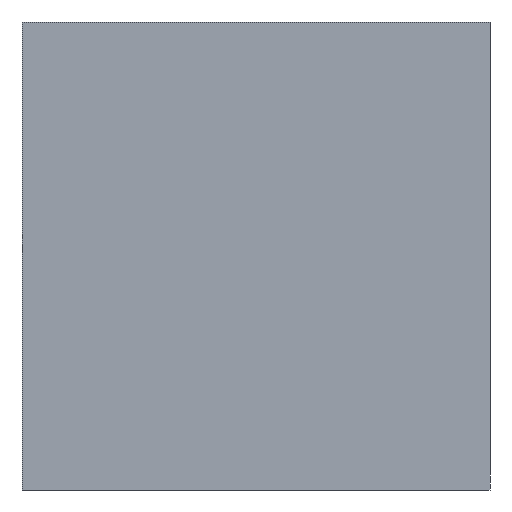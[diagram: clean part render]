
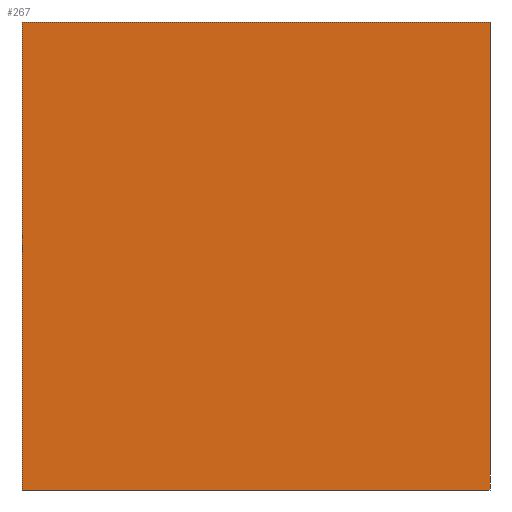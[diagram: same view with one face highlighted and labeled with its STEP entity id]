
A CAD part, front view. The second image highlights one B-rep face of the part: STEP entity #267.
In plain terms, the highlighted planar face has unit normal (0, -1, 0).
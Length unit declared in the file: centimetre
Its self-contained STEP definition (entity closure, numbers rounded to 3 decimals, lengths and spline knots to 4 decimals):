
#11 = ORIENTED_EDGE ( 'NONE', *, *, #600, .F. ) ;
#15 = ORIENTED_EDGE ( 'NONE', *, *, #215, .T. ) ;
#16 = EDGE_LOOP ( 'NONE', ( #327, #11, #191, #15 ) ) ;
#17 = AXIS2_PLACEMENT_3D ( 'NONE', #334, #101, #560 ) ;
#45 = CARTESIAN_POINT ( 'NONE',  ( 0., 0., 0. ) ) ;
#48 = CARTESIAN_POINT ( 'NONE',  ( 0., 0., 1000. ) ) ;
#50 = VECTOR ( 'NONE', #461, 100. ) ;
#53 = VECTOR ( 'NONE', #529, 100. ) ;
#56 = CARTESIAN_POINT ( 'NONE',  ( 1000., 0., 0. ) ) ;
#67 = EDGE_CURVE ( 'NONE', #206, #304, #549, .T. ) ;
#93 = LINE ( 'NONE', #102, #53 ) ;
#101 = DIRECTION ( 'NONE',  ( 0., 1., 0. ) ) ;
#102 = CARTESIAN_POINT ( 'NONE',  ( 1000., 0., 1000. ) ) ;
#125 = EDGE_CURVE ( 'NONE', #482, #204, #129, .T. ) ;
#129 = LINE ( 'NONE', #596, #314 ) ;
#139 = DIRECTION ( 'NONE',  ( 0., 0., -1. ) ) ;
#178 = VECTOR ( 'NONE', #139, 100. ) ;
#191 = ORIENTED_EDGE ( 'NONE', *, *, #125, .F. ) ;
#192 = FACE_OUTER_BOUND ( 'NONE', #16, .T. ) ;
#204 = VERTEX_POINT ( 'NONE', #465 ) ;
#206 = VERTEX_POINT ( 'NONE', #45 ) ;
#214 = CARTESIAN_POINT ( 'NONE',  ( 0., 0., 0. ) ) ;
#215 = EDGE_CURVE ( 'NONE', #482, #206, #228, .T. ) ;
#228 = LINE ( 'NONE', #48, #178 ) ;
#267 = ADVANCED_FACE ( 'NONE', ( #192 ), #278, .F. ) ;
#278 = PLANE ( 'NONE',  #17 ) ;
#304 = VERTEX_POINT ( 'NONE', #56 ) ;
#314 = VECTOR ( 'NONE', #366, 100. ) ;
#326 = CARTESIAN_POINT ( 'NONE',  ( 0., 0., 1000. ) ) ;
#327 = ORIENTED_EDGE ( 'NONE', *, *, #67, .T. ) ;
#334 = CARTESIAN_POINT ( 'NONE',  ( 0., 0., 1000. ) ) ;
#366 = DIRECTION ( 'NONE',  ( 1., 0., 0. ) ) ;
#461 = DIRECTION ( 'NONE',  ( 1., 0., 0. ) ) ;
#465 = CARTESIAN_POINT ( 'NONE',  ( 1000., 0., 1000. ) ) ;
#482 = VERTEX_POINT ( 'NONE', #326 ) ;
#529 = DIRECTION ( 'NONE',  ( 0., 0., -1. ) ) ;
#549 = LINE ( 'NONE', #214, #50 ) ;
#560 = DIRECTION ( 'NONE',  ( 0., 0., 1. ) ) ;
#596 = CARTESIAN_POINT ( 'NONE',  ( 0., 0., 1000. ) ) ;
#600 = EDGE_CURVE ( 'NONE', #204, #304, #93, .T. ) ;
